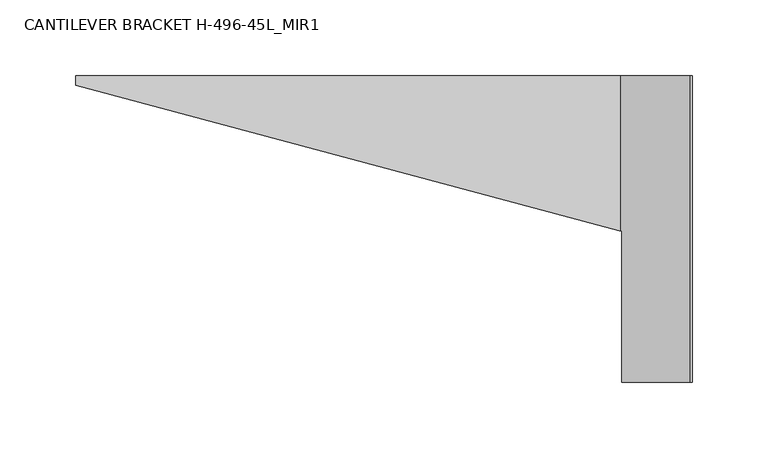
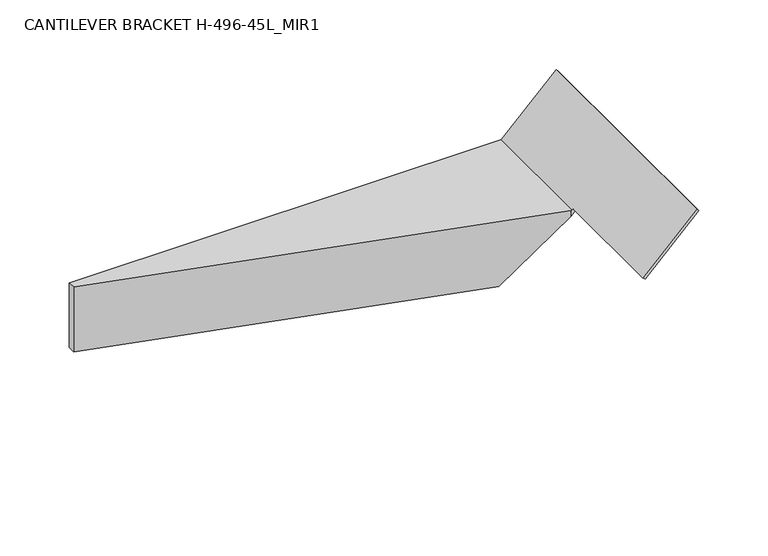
"""IFC4 building model written with IfcOpenShell, lengths in millimetres: proxy geometry, CANTILEVER BRACKET H-496-45L_MIR1."""

from ifc_helpers import new_model, si_unit, origin, place, context, project, spatial, faceted_brep, source, transform, mapped, element, save


def cantilever_bracket_h_496_45l_mir1_5715caa5(model_context):
    return source(origin(), model_context, "Body", "Brep", [
        faceted_brep([(0.0, 203.2, -57.15), (0.0, 196.8519902, -57.15), (0.0, 196.8519902, 0.0), (0.0, 203.2, 0.0), (359.8457951, 100.4316, 0.0), (359.8457951, 100.4316, -4.6442049), (363.5664461, 100.4316, -0.9235539), (361.7703949, 100.4316, 0.8724973), (360.8978976, 100.4316, 0.0), (307.34, 114.5004854, -57.15), (408.4677267, 203.2, 43.9777267), (408.4677267, 0.0, 43.9777267), (363.5664461, 0.0, -0.9235539), (307.34, 203.2, -57.15), (360.8978976, 203.2, 0.0), (361.7703949, 0.0, 0.8724973), (406.6716755, 0.0, 45.7737779), (406.6716755, 203.2, 45.7737779)], [[[0, 1, 2, 3]], [[4, 5, 6, 7, 8]], [[1, 9, 5, 4, 2]], [[10, 11, 12, 6, 5, 9, 13]], [[14, 8, 7, 15, 16, 17]], [[13, 0, 3, 14, 17, 10]], [[8, 14, 3, 2, 4]], [[12, 15, 7, 6]], [[15, 12, 11, 16]], [[17, 16, 11, 10]], [[0, 13, 9, 1]]]),
    ])


if __name__ == "__main__":
    model = new_model("IFC4")
    model_context = context("Model", 3, world=origin())
    ifc_project = project(units=[si_unit("LENGTHUNIT", "METRE", prefix="MILLI")], contexts=[model_context])
    site = spatial("IfcSite", under=ifc_project)
    building = spatial("IfcBuilding", under=site)
    placement = place(None, origin())
    cantilever_bracket_h_496_45l_mir1_shape = cantilever_bracket_h_496_45l_mir1_5715caa5(model_context)
    element("IfcBuildingElementProxy", 1, Name="CANTILEVER BRACKET H-496-45L_MIR1", ObjectType="CANTILEVER BRACKET H-496-45L_MIR1", at=placement, inside=building, context=model_context, shape_type="MappedRepresentation", body=[
        mapped(cantilever_bracket_h_496_45l_mir1_shape, transform((0.0, 0.0, 0.0), x_axis=(1.0, 0.0, 0.0), y_axis=(0.0, 1.0, 0.0), z_axis=(0.0, 0.0, 1.0))),
    ])
    save(model, "model.ifc")
